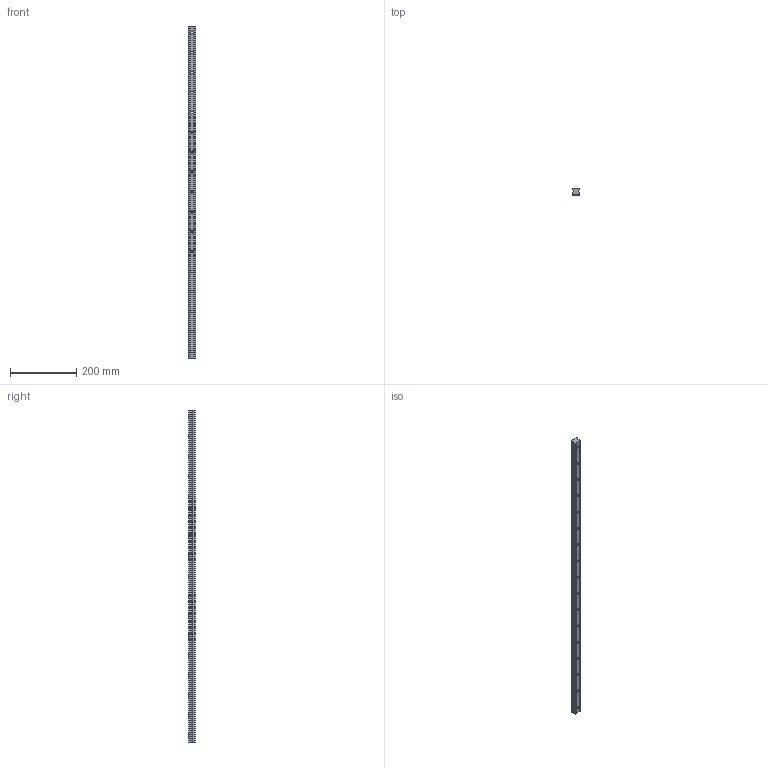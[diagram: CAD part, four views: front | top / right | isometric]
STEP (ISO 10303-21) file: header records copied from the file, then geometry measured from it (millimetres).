
FILE_DESCRIPTION (( 'STEP AP203' ), '1' );
FILE_NAME ('L1016.BL25-1000.step', '2019-06-12T12:06:22', ( '' ), ( '' ), 'SwSTEP 2.0', 'SolidWorks 2017', '' );
FILE_SCHEMA (( 'CONFIG_CONTROL_DESIGN' ));
Length unit declared in the file: millimetre
Products named in the file (1): L1016.BL25-1000
Bounding box: 23 x 19.2 x 1000 mm (x, y, z)
Volume: 368248.7 mm3; surface area: 95226 mm2
Topology: 1 solids, 1 shells, 111 faces, 276 edges, 184 vertices
Faces by surface type: cylinder 72, plane 39
Entity records: 3519 total; most frequent: DIRECTION 644, CARTESIAN_POINT 572, ORIENTED_EDGE 552, EDGE_CURVE 276, AXIS2_PLACEMENT_3D 256, VERTEX_POINT 184, EDGE_LOOP 162, CIRCLE 144
